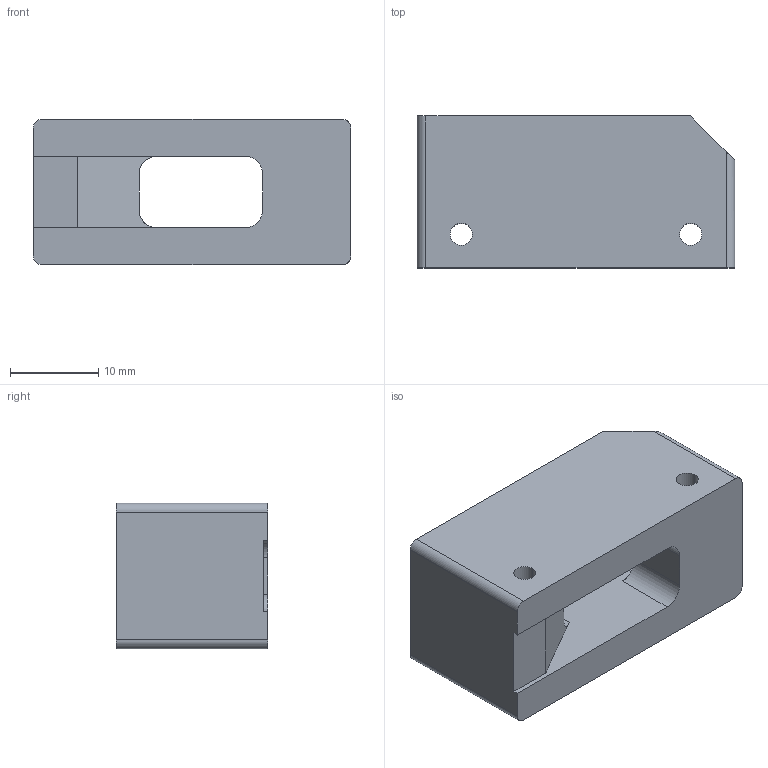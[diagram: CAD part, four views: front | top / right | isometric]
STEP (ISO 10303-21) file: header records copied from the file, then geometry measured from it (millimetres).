
FILE_DESCRIPTION (( 'STEP AP203' ), '1' );
FILE_NAME ('LM009-011-01 Ìù³ß¹¤¾ß.STEP', '2021-05-08T07:06:19', ( '' ), ( '' ), 'SwSTEP 2.0', 'SolidWorks 2016', '' );
FILE_SCHEMA (( 'CONFIG_CONTROL_DESIGN' ));
Length unit declared in the file: millimetre
Products named in the file (1): LM009-011-01 泂喜馱撿
Bounding box: 36 x 17.2 x 16.5 mm (x, y, z)
Volume: 7044.6 mm3; surface area: 3684.4 mm2
Topology: 1 solids, 1 shells, 27 faces, 81 edges, 54 vertices
Faces by surface type: plane 15, cylinder 12
Entity records: 1004 total; most frequent: CARTESIAN_POINT 175, ORIENTED_EDGE 162, DIRECTION 153, EDGE_CURVE 81, VECTOR 57, LINE 57, VERTEX_POINT 54, AXIS2_PLACEMENT_3D 48
